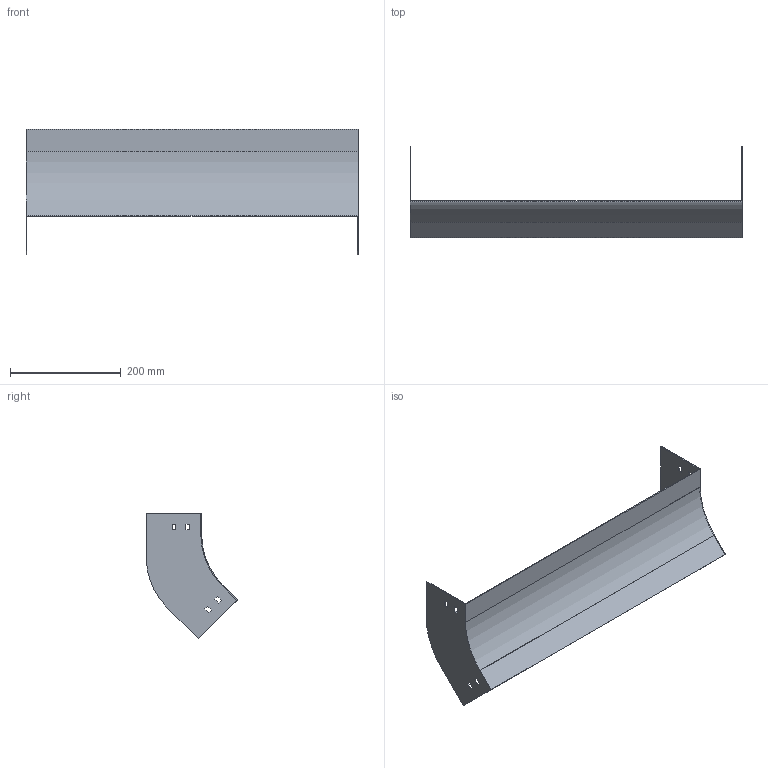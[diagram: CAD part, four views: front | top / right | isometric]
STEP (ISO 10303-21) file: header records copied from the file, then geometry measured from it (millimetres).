
FILE_DESCRIPTION (( 'STEP AP214' ), '1' );
FILE_NAME ('D4_601.step', '2025-07-16T09:07:56', ( '' ), ( '' ), 'SwSTEP 2.0', 'SolidWorks 2023', '' );
FILE_SCHEMA (( 'AUTOMOTIVE_DESIGN' ));
Length unit declared in the file: millimetre
Products named in the file (1): D4_601
Bounding box: 600 x 164.9 x 227.38 mm (x, y, z)
Volume: 226735.4 mm3; surface area: 305894.2 mm2
Topology: 1 solids, 1 shells, 50 faces, 144 edges, 96 vertices
Faces by surface type: plane 46, cylinder 4
Entity records: 1671 total; most frequent: CARTESIAN_POINT 291, ORIENTED_EDGE 288, DIRECTION 254, EDGE_CURVE 144, VECTOR 136, LINE 136, VERTEX_POINT 96, EDGE_LOOP 66
